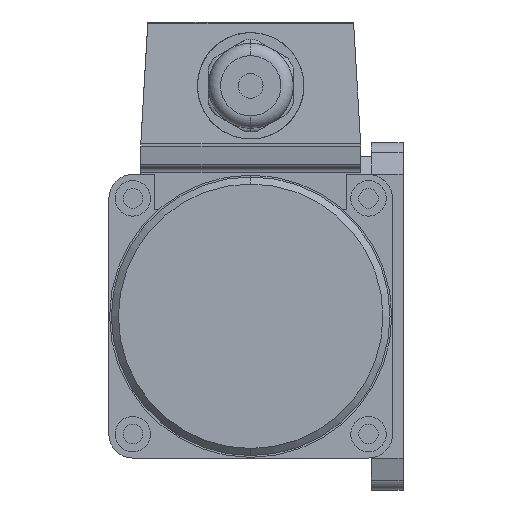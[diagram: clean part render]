
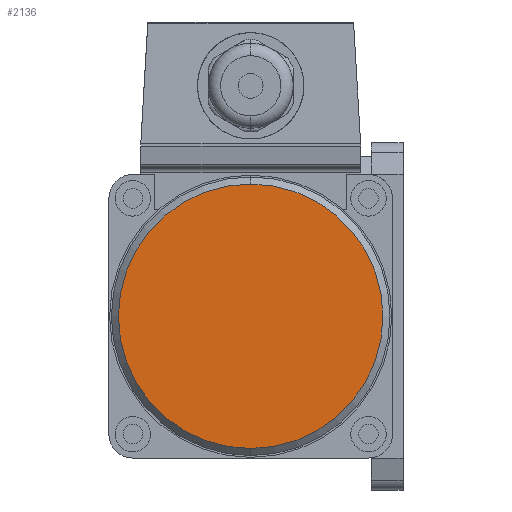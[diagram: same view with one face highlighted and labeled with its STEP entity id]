
A CAD part, left-side view. The second image highlights one B-rep face of the part: STEP entity #2136.
In plain terms, the highlighted planar face has unit normal (-1, 0, 0).
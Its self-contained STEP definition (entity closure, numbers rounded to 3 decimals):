
#2116=CARTESIAN_POINT('POINT1514',(-146.,43.,22.3));
#2117=VERTEX_POINT('VERTEX1514',#2116);
#2118=CARTESIAN_POINT('POINT1515',(-146.,43.,-52.3));
#2119=VERTEX_POINT('VERTEX1515',#2118);
#2120=CARTESIAN_POINT('POS2565',(-146.,43.,-15.));
#2121=DIRECTION('DIR3804',(1.,0.,0.));
#2122=DIRECTION('DIR3805',(0.,0.,1.));
#2123=AXIS2_PLACEMENT_3D('AXIS1240',#2120,#2121,#2122);
#2124=CIRCLE('ELLIPSE570',#2123,37.3);
#2125=EDGE_CURVE('EDGE2292',#2117,#2119,#2124,.T.);
#2126=ORIENTED_EDGE('COEDGE4575',*,*,#2125,.F.);
#2127=EDGE_CURVE('EDGE2293',#2119,#2117,#2124,.T.);
#2128=ORIENTED_EDGE('COEDGE4576',*,*,#2127,.F.);
#2129=EDGE_LOOP('NONE',(#2126,#2128));
#2130=FACE_BOUND('LOOP1',#2129,.T.);
#2131=CARTESIAN_POINT('POS2566',(-146.,43.,
   3.65));
#2132=DIRECTION('DIR3806',(-1.,0.,0.));
#2133=DIRECTION('DIR3807',(0.,1.,0.));
#2134=AXIS2_PLACEMENT_3D('AXIS1241',#2131,#2132,#2133);
#2135=PLANE('PLANE420',#2134);
#2136=ADVANCED_FACE('FACE915',(#2130),#2135,.T.);
